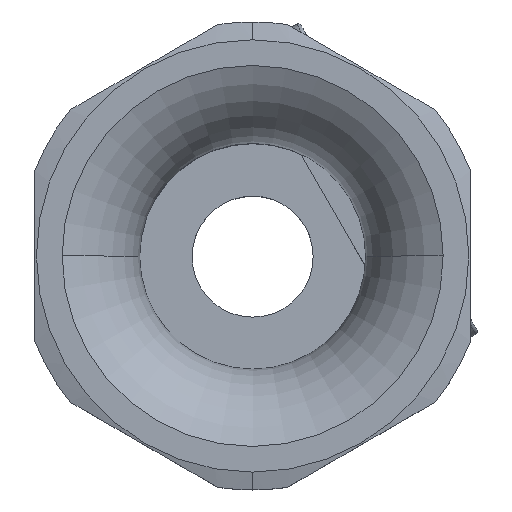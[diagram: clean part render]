
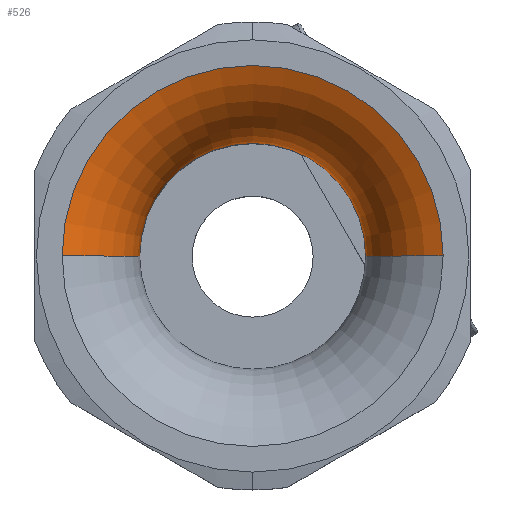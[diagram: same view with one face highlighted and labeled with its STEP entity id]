
A CAD part, top view. The second image highlights one B-rep face of the part: STEP entity #526.
In plain terms, the highlighted toroidal (fillet/blend) face has major radius 14.5 mm and minor radius 7.5 mm.
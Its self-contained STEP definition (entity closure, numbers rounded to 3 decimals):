
#35 = CARTESIAN_POINT ( 'NONE',  ( 7., 0., 12.5 ) ) ;
#62 = CARTESIAN_POINT ( 'NONE',  ( 14.5, 0., 12.5 ) ) ;
#63 = AXIS2_PLACEMENT_3D ( 'NONE', #62, #69, #68 ) ;
#64 = CIRCLE ( 'NONE', #63, 7.5 ) ;
#68 = DIRECTION ( 'NONE',  ( 0., 0., -1. ) ) ;
#69 = DIRECTION ( 'NONE',  ( 0., -1., 0. ) ) ;
#437 = EDGE_CURVE ( 'NONE', #530, #470, #64, .T. ) ;
#443 = ORIENTED_EDGE ( 'NONE', *, *, #437, .F. ) ;
#470 = VERTEX_POINT ( 'NONE', #35 ) ;
#508 = ORIENTED_EDGE ( 'NONE', *, *, #830, .F. ) ;
#516 = VERTEX_POINT ( 'NONE', #2418 ) ;
#526 = ADVANCED_FACE ( 'NONE', ( #2444 ), #2465, .T. ) ;
#527 = EDGE_LOOP ( 'NONE', ( #528, #532, #508, #443 ) ) ;
#528 = ORIENTED_EDGE ( 'NONE', *, *, #529, .T. ) ;
#529 = EDGE_CURVE ( 'NONE', #530, #531, #2460, .T. ) ;
#530 = VERTEX_POINT ( 'NONE', #2439 ) ;
#531 = VERTEX_POINT ( 'NONE', #2438 ) ;
#532 = ORIENTED_EDGE ( 'NONE', *, *, #533, .T. ) ;
#533 = EDGE_CURVE ( 'NONE', #531, #516, #2436, .T. ) ;
#830 = EDGE_CURVE ( 'NONE', #470, #516, #3038, .T. ) ;
#2418 = CARTESIAN_POINT ( 'NONE',  ( -7., 0., 12.5 ) ) ;
#2432 = DIRECTION ( 'NONE',  ( -1., 0., 0. ) ) ;
#2433 = DIRECTION ( 'NONE',  ( 0., 1., 0. ) ) ;
#2434 = CARTESIAN_POINT ( 'NONE',  ( -14.5, 0., 12.5 ) ) ;
#2435 = AXIS2_PLACEMENT_3D ( 'NONE', #2434, #2433, #2432 ) ;
#2436 = CIRCLE ( 'NONE', #2435, 7.5 ) ;
#2438 = CARTESIAN_POINT ( 'NONE',  ( -11.807, 0., 19.5 ) ) ;
#2439 = CARTESIAN_POINT ( 'NONE',  ( 11.807, 0., 19.5 ) ) ;
#2440 = DIRECTION ( 'NONE',  ( 1., 0., 0. ) ) ;
#2441 = DIRECTION ( 'NONE',  ( 0., 0., 1. ) ) ;
#2444 = FACE_OUTER_BOUND ( 'NONE', #527, .T. ) ;
#2458 = CARTESIAN_POINT ( 'NONE',  ( 0., 0., 19.5 ) ) ;
#2459 = AXIS2_PLACEMENT_3D ( 'NONE', #2458, #2441, #2440 ) ;
#2460 = CIRCLE ( 'NONE', #2459, 11.807 ) ;
#2461 = DIRECTION ( 'NONE',  ( 1., 0., 0. ) ) ;
#2462 = DIRECTION ( 'NONE',  ( 0., 0., 1. ) ) ;
#2463 = CARTESIAN_POINT ( 'NONE',  ( 0., 0., 12.5 ) ) ;
#2464 = AXIS2_PLACEMENT_3D ( 'NONE', #2463, #2462, #2461 ) ;
#2465 = TOROIDAL_SURFACE ( 'NONE', #2464, 14.5, 7.5 ) ;
#3021 = CARTESIAN_POINT ( 'NONE',  ( 0., 0., 12.5 ) ) ;
#3034 = DIRECTION ( 'NONE',  ( 1., 0., 0. ) ) ;
#3035 = DIRECTION ( 'NONE',  ( 0., 0., 1. ) ) ;
#3038 = CIRCLE ( 'NONE', #3043, 7. ) ;
#3043 = AXIS2_PLACEMENT_3D ( 'NONE', #3021, #3035, #3034 ) ;
